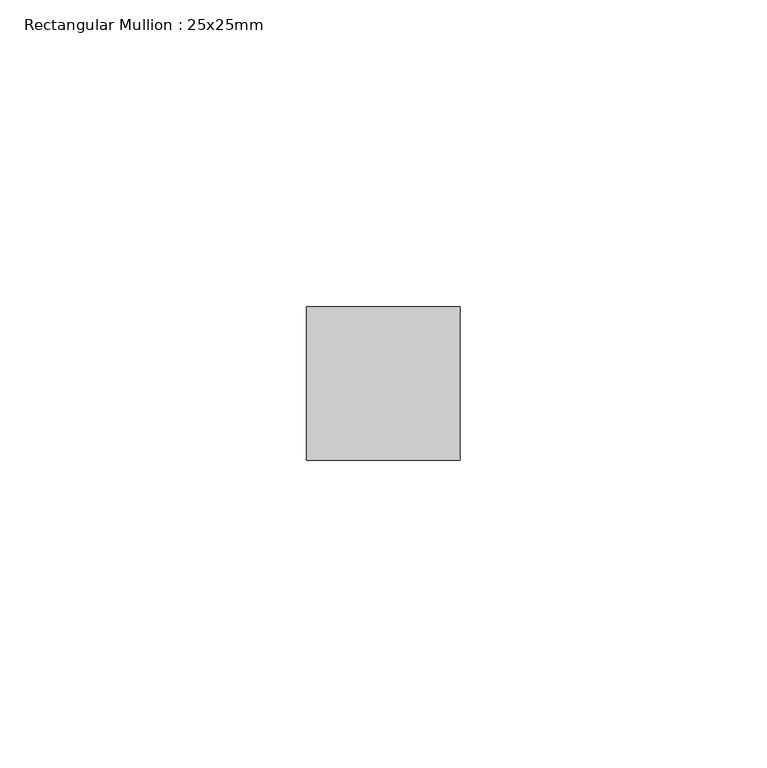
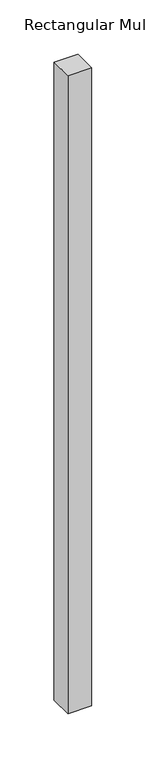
"""IFC4 building model written with IfcOpenShell, lengths in millimetres: member geometry, Rectangular Mullion : 25x25mm."""

from ifc_helpers import new_model, si_unit, frame, origin, place, context, project, spatial, polyline, outline, extrude, source, transform, mapped, element, save


def rectangular_mullion_25x25mm_786a5d36(model_context):
    return source(origin(), model_context, "Body", "SweptSolid", [
        extrude(outline(polyline([(0.0, 0.5), (0.0, -24.5), (-25.0, -24.5), (-25.0, 0.5), (0.0, 0.5)])), frame((0.0, 0.0, -715.0000001), z_axis=(0.0, 0.0, 1.0), x_axis=(1.0, 0.0, 0.0)), (0.0, 0.0, 1.0), 715.0000001),
    ])


if __name__ == "__main__":
    model = new_model("IFC4")
    model_context = context("Model", 3, world=origin())
    ifc_project = project(units=[si_unit("LENGTHUNIT", "METRE", prefix="MILLI")], contexts=[model_context])
    site = spatial("IfcSite", under=ifc_project)
    building = spatial("IfcBuilding", under=site)
    placement = place(None, origin())
    rectangular_mullion_25x25mm_shape = rectangular_mullion_25x25mm_786a5d36(model_context)
    element("IfcMember", 1, ObjectType="Rectangular Mullion : 25x25mm", at=placement, inside=building, context=model_context, shape_type="MappedRepresentation", body=[
        mapped(rectangular_mullion_25x25mm_shape, transform((0.0, 0.0, 0.0), x_axis=(1.0, 0.0, 0.0), y_axis=(0.0, 1.0, 0.0), z_axis=(0.0, 0.0, 1.0))),
    ])
    save(model, "model.ifc")
